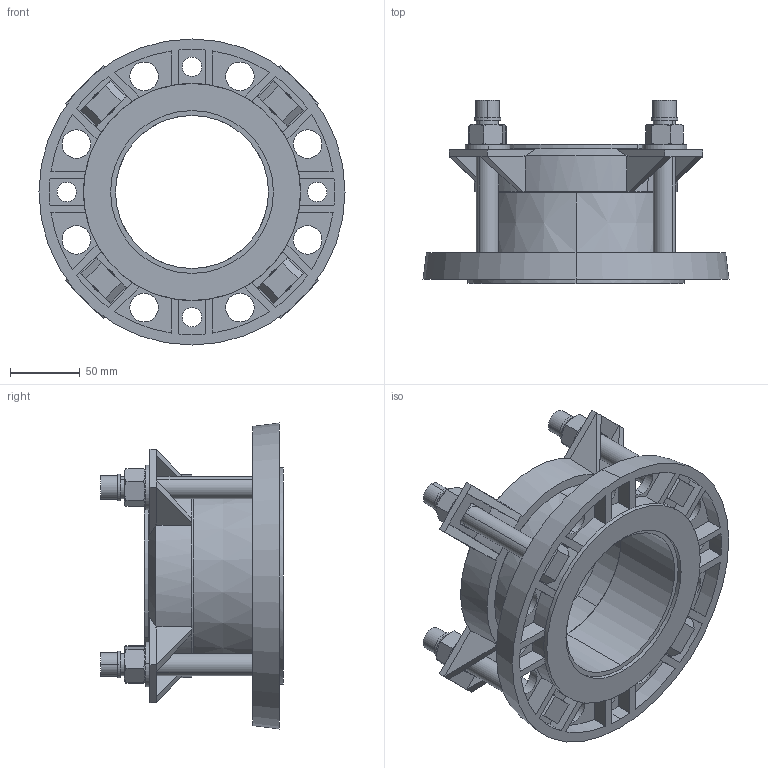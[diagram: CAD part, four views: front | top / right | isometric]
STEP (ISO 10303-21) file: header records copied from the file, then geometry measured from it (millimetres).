
FILE_DESCRIPTION (( 'STEP AP203' ), '1' );
FILE_NAME ('O_623_10_DN100-110mm_X1XXXXX_REV01.step', '2020-04-17T08:26:24', ( '' ), ( '' ), 'SwSTEP 2.0', 'SolidWorks 2019', '' );
FILE_SCHEMA (( 'CONFIG_CONTROL_DESIGN' ));
Length unit declared in the file: millimetre
Products named in the file (1): O_623_10_DN100-110mm_X1XXXXX_REV01
Bounding box: 220 x 131.5 x 220 mm (x, y, z)
Volume: 1003952.3 mm3; surface area: 215246.3 mm2
Topology: 1 solids, 1 shells, 464 faces, 1171 edges, 731 vertices
Faces by surface type: plane 239, cylinder 154, cone 69, bspline 2
Entity records: 14566 total; most frequent: CARTESIAN_POINT 3350, ORIENTED_EDGE 2342, DIRECTION 2298, EDGE_CURVE 1171, AXIS2_PLACEMENT_3D 871, VERTEX_POINT 731, LINE 556, VECTOR 556
